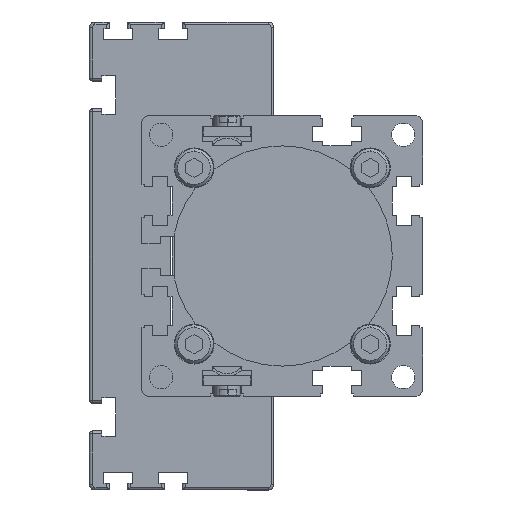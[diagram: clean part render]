
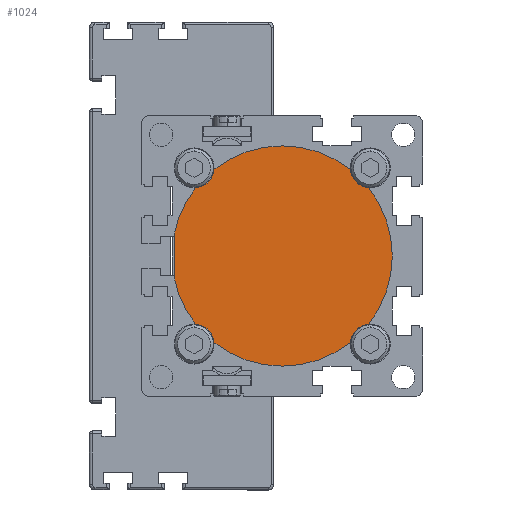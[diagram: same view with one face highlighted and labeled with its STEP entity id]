
A CAD part, left-side view. The second image highlights one B-rep face of the part: STEP entity #1024.
In plain terms, the highlighted planar face has unit normal (-1, 0, 0) as drawn and (1, 0, 0) by its records, which use the part's own axes.
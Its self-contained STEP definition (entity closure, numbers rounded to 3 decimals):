
#2 = AXIS2_PLACEMENT_3D ( 'NONE', #9743, #27027, #12222 ) ;
#119 = EDGE_CURVE ( 'NONE', #17168, #11115, #30070, .T. ) ;
#240 = LINE ( 'NONE', #24464, #19122 ) ;
#322 = DIRECTION ( 'NONE',  ( 1., 0., 0. ) ) ;
#514 = VERTEX_POINT ( 'NONE', #6943 ) ;
#831 = ORIENTED_EDGE ( 'NONE', *, *, #4404, .F. ) ;
#1007 = ORIENTED_EDGE ( 'NONE', *, *, #30324, .T. ) ;
#1024 = ADVANCED_FACE ( 'NONE', ( #8038 ), #9076, .T. ) ;
#1216 = VECTOR ( 'NONE', #13122, 1000. ) ;
#1569 = ORIENTED_EDGE ( 'NONE', *, *, #2397, .T. ) ;
#1707 = CIRCLE ( 'NONE', #16905, 7.25 ) ;
#2031 = CARTESIAN_POINT ( 'NONE',  ( 1., 32., -32. ) ) ;
#2152 = ORIENTED_EDGE ( 'NONE', *, *, #16346, .F. ) ;
#2397 = EDGE_CURVE ( 'NONE', #12013, #9462, #2973, .T. ) ;
#2498 = EDGE_CURVE ( 'NONE', #28349, #25779, #20338, .T. ) ;
#2973 = CIRCLE ( 'NONE', #7620, 40. ) ;
#3322 = CARTESIAN_POINT ( 'NONE',  ( 1., 0., -7.25 ) ) ;
#4301 = CARTESIAN_POINT ( 'NONE',  ( 1., 0., 0. ) ) ;
#4404 = EDGE_CURVE ( 'NONE', #17168, #27726, #7041, .T. ) ;
#4426 = ORIENTED_EDGE ( 'NONE', *, *, #29757, .T. ) ;
#4480 = DIRECTION ( 'NONE',  ( 0., 0., -1. ) ) ;
#4595 = ORIENTED_EDGE ( 'NONE', *, *, #6017, .F. ) ;
#5059 = ORIENTED_EDGE ( 'NONE', *, *, #17215, .F. ) ;
#5141 = AXIS2_PLACEMENT_3D ( 'NONE', #20369, #5578, #22836 ) ;
#5278 = AXIS2_PLACEMENT_3D ( 'NONE', #6686, #23935, #9159 ) ;
#5578 = DIRECTION ( 'NONE',  ( 1., 0., 0. ) ) ;
#5939 = ORIENTED_EDGE ( 'NONE', *, *, #7175, .T. ) ;
#6017 = EDGE_CURVE ( 'NONE', #25779, #11115, #7750, .T. ) ;
#6371 = ORIENTED_EDGE ( 'NONE', *, *, #13962, .F. ) ;
#6686 = CARTESIAN_POINT ( 'NONE',  ( 1., -32., 32. ) ) ;
#6784 = ORIENTED_EDGE ( 'NONE', *, *, #2498, .F. ) ;
#6800 = DIRECTION ( 'NONE',  ( 0., 0., -1. ) ) ;
#6943 = CARTESIAN_POINT ( 'NONE',  ( 1., -24.775, -31.404 ) ) ;
#7041 = CIRCLE ( 'NONE', #29756, 7.25 ) ;
#7175 = EDGE_CURVE ( 'NONE', #30947, #7315, #14978, .T. ) ;
#7208 = CARTESIAN_POINT ( 'NONE',  ( 1., 0., 0. ) ) ;
#7315 = VERTEX_POINT ( 'NONE', #28996 ) ;
#7334 = CARTESIAN_POINT ( 'NONE',  ( 1., 39., -7.25 ) ) ;
#7411 = CARTESIAN_POINT ( 'NONE',  ( 1., 39., 7.25 ) ) ;
#7476 = CIRCLE ( 'NONE', #2, 40. ) ;
#7620 = AXIS2_PLACEMENT_3D ( 'NONE', #8311, #8193, #7991 ) ;
#7750 = LINE ( 'NONE', #3322, #1216 ) ;
#7991 = DIRECTION ( 'NONE',  ( 0., 0., -1. ) ) ;
#8038 = FACE_OUTER_BOUND ( 'NONE', #23886, .T. ) ;
#8193 = DIRECTION ( 'NONE',  ( 1., 0., 0. ) ) ;
#8249 = CARTESIAN_POINT ( 'NONE',  ( 1., -31.404, 24.775 ) ) ;
#8311 = CARTESIAN_POINT ( 'NONE',  ( 1., 0., 0. ) ) ;
#8354 = CARTESIAN_POINT ( 'NONE',  ( 1., -32., -32. ) ) ;
#8639 = DIRECTION ( 'NONE',  ( 1., 0., 0. ) ) ;
#8718 = CARTESIAN_POINT ( 'NONE',  ( 1., 39.337, -7.25 ) ) ;
#9076 = PLANE ( 'NONE',  #29491 ) ;
#9159 = DIRECTION ( 'NONE',  ( 0., 0., -1. ) ) ;
#9462 = VERTEX_POINT ( 'NONE', #31450 ) ;
#9678 = DIRECTION ( 'NONE',  ( 0., 0., -1. ) ) ;
#9743 = CARTESIAN_POINT ( 'NONE',  ( 1., 0., 0. ) ) ;
#9821 = VERTEX_POINT ( 'NONE', #8249 ) ;
#10058 = CARTESIAN_POINT ( 'NONE',  ( 1., 24.775, 31.404 ) ) ;
#10690 = CARTESIAN_POINT ( 'NONE',  ( 1., 39.337, 7.25 ) ) ;
#10809 = DIRECTION ( 'NONE',  ( 0., 0., -1. ) ) ;
#11115 = VERTEX_POINT ( 'NONE', #8718 ) ;
#11816 = ORIENTED_EDGE ( 'NONE', *, *, #29659, .T. ) ;
#11924 = AXIS2_PLACEMENT_3D ( 'NONE', #23416, #8639, #25887 ) ;
#12013 = VERTEX_POINT ( 'NONE', #10690 ) ;
#12222 = DIRECTION ( 'NONE',  ( 0., 0., -1. ) ) ;
#12987 = VECTOR ( 'NONE', #15072, 1000. ) ;
#13122 = DIRECTION ( 'NONE',  ( 0., 1., 0. ) ) ;
#13962 = EDGE_CURVE ( 'NONE', #9821, #7315, #16132, .T. ) ;
#14032 = DIRECTION ( 'NONE',  ( 0., 0., -1. ) ) ;
#14978 = CIRCLE ( 'NONE', #11924, 40. ) ;
#15014 = AXIS2_PLACEMENT_3D ( 'NONE', #4301, #21586, #6800 ) ;
#15040 = CARTESIAN_POINT ( 'NONE',  ( 1., 0., 0. ) ) ;
#15072 = DIRECTION ( 'NONE',  ( 0., 0., -1. ) ) ;
#15485 = ORIENTED_EDGE ( 'NONE', *, *, #119, .T. ) ;
#16019 = CIRCLE ( 'NONE', #15014, 40. ) ;
#16132 = CIRCLE ( 'NONE', #5278, 7.25 ) ;
#16163 = VERTEX_POINT ( 'NONE', #10058 ) ;
#16346 = EDGE_CURVE ( 'NONE', #514, #19184, #1707, .T. ) ;
#16905 = AXIS2_PLACEMENT_3D ( 'NONE', #8354, #25593, #10809 ) ;
#17015 = DIRECTION ( 'NONE',  ( 0., -1., 0. ) ) ;
#17168 = VERTEX_POINT ( 'NONE', #21669 ) ;
#17215 = EDGE_CURVE ( 'NONE', #12013, #28349, #240, .T. ) ;
#17281 = CARTESIAN_POINT ( 'NONE',  ( 1., -31.404, -24.775 ) ) ;
#17530 = DIRECTION ( 'NONE',  ( 0., 0., -1. ) ) ;
#18353 = AXIS2_PLACEMENT_3D ( 'NONE', #7208, #24473, #9678 ) ;
#19122 = VECTOR ( 'NONE', #17015, 1000. ) ;
#19184 = VERTEX_POINT ( 'NONE', #17281 ) ;
#19274 = DIRECTION ( 'NONE',  ( 1., 0., 0. ) ) ;
#19512 = CIRCLE ( 'NONE', #18353, 40. ) ;
#20338 = LINE ( 'NONE', #29633, #12987 ) ;
#20369 = CARTESIAN_POINT ( 'NONE',  ( 1., 32., 32. ) ) ;
#21586 = DIRECTION ( 'NONE',  ( 1., 0., 0. ) ) ;
#21669 = CARTESIAN_POINT ( 'NONE',  ( 1., 31.404, -24.775 ) ) ;
#22836 = DIRECTION ( 'NONE',  ( 0., 0., -1. ) ) ;
#23416 = CARTESIAN_POINT ( 'NONE',  ( 1., 0., 0. ) ) ;
#23886 = EDGE_LOOP ( 'NONE', ( #27414, #11816, #5939, #6371, #1007, #2152, #4426, #831, #15485, #4595, #6784, #5059, #1569 ) ) ;
#23935 = DIRECTION ( 'NONE',  ( 1., 0., 0. ) ) ;
#24464 = CARTESIAN_POINT ( 'NONE',  ( 1., 0., 7.25 ) ) ;
#24473 = DIRECTION ( 'NONE',  ( 1., 0., 0. ) ) ;
#24706 = CARTESIAN_POINT ( 'NONE',  ( 1., 0., 40. ) ) ;
#24747 = CIRCLE ( 'NONE', #5141, 7.25 ) ;
#25593 = DIRECTION ( 'NONE',  ( 1., 0., 0. ) ) ;
#25779 = VERTEX_POINT ( 'NONE', #7334 ) ;
#25887 = DIRECTION ( 'NONE',  ( 0., 0., -1. ) ) ;
#26327 = CARTESIAN_POINT ( 'NONE',  ( 1., 0., 0. ) ) ;
#26886 = CARTESIAN_POINT ( 'NONE',  ( 1., 24.775, -31.404 ) ) ;
#27027 = DIRECTION ( 'NONE',  ( 1., 0., 0. ) ) ;
#27414 = ORIENTED_EDGE ( 'NONE', *, *, #31609, .F. ) ;
#27726 = VERTEX_POINT ( 'NONE', #26886 ) ;
#28349 = VERTEX_POINT ( 'NONE', #7411 ) ;
#28807 = DIRECTION ( 'NONE',  ( 1., 0., 0. ) ) ;
#28996 = CARTESIAN_POINT ( 'NONE',  ( 1., -24.775, 31.404 ) ) ;
#29491 = AXIS2_PLACEMENT_3D ( 'NONE', #26327, #28807, #14032 ) ;
#29633 = CARTESIAN_POINT ( 'NONE',  ( 1., 39., 0. ) ) ;
#29659 = EDGE_CURVE ( 'NONE', #16163, #30947, #16019, .T. ) ;
#29756 = AXIS2_PLACEMENT_3D ( 'NONE', #2031, #19274, #4480 ) ;
#29757 = EDGE_CURVE ( 'NONE', #514, #27726, #19512, .T. ) ;
#30070 = CIRCLE ( 'NONE', #31962, 40. ) ;
#30324 = EDGE_CURVE ( 'NONE', #9821, #19184, #7476, .T. ) ;
#30947 = VERTEX_POINT ( 'NONE', #24706 ) ;
#31450 = CARTESIAN_POINT ( 'NONE',  ( 1., 31.404, 24.775 ) ) ;
#31609 = EDGE_CURVE ( 'NONE', #16163, #9462, #24747, .T. ) ;
#31962 = AXIS2_PLACEMENT_3D ( 'NONE', #15040, #322, #17530 ) ;
